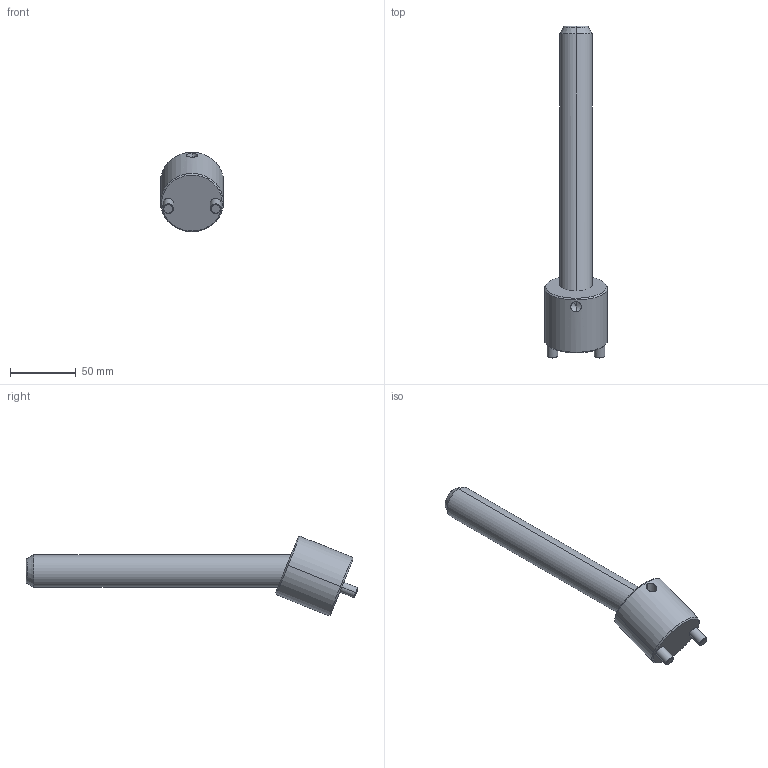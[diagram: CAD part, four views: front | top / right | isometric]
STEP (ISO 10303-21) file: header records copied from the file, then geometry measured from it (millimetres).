
FILE_DESCRIPTION(('CATIA V5 STEP Exchange'),'2;1');
FILE_NAME('C:\Users\Raffaele\Desktop\3D BOLEX\3D FILES CF BOLEX\19-INCLINED ASSEMBLY REF_CI\CI2225200.stp','2019-06-24T06:58:57+00:00',('none'),('none'),'CATIA Version 5 Release 20 GA (IN-10)','CATIA V5 STEP AP203','none');
FILE_SCHEMA(('CONFIG_CONTROL_DESIGN'));
Length unit declared in the file: millimetre
Products named in the file (1): CI2225200
Assembly tree (2 placements, depth 2):
  CI2225200
    #58
    #602
Bounding box: 48 x 253.03 x 60.61 mm (x, y, z)
Volume: 177348.4 mm3; surface area: 33225 mm2
Topology: 2 solids, 2 shells, 39 faces, 82 edges, 47 vertices
Faces by surface type: cone 14, cylinder 14, plane 7, torus 4
Entity records: 1530 total; most frequent: CARTESIAN_POINT 671, ORIENTED_EDGE 160, DIRECTION 145, EDGE_CURVE 80, AXIS2_PLACEMENT_3D 72, VERTEX_POINT 47, EDGE_LOOP 43, ADVANCED_FACE 39
